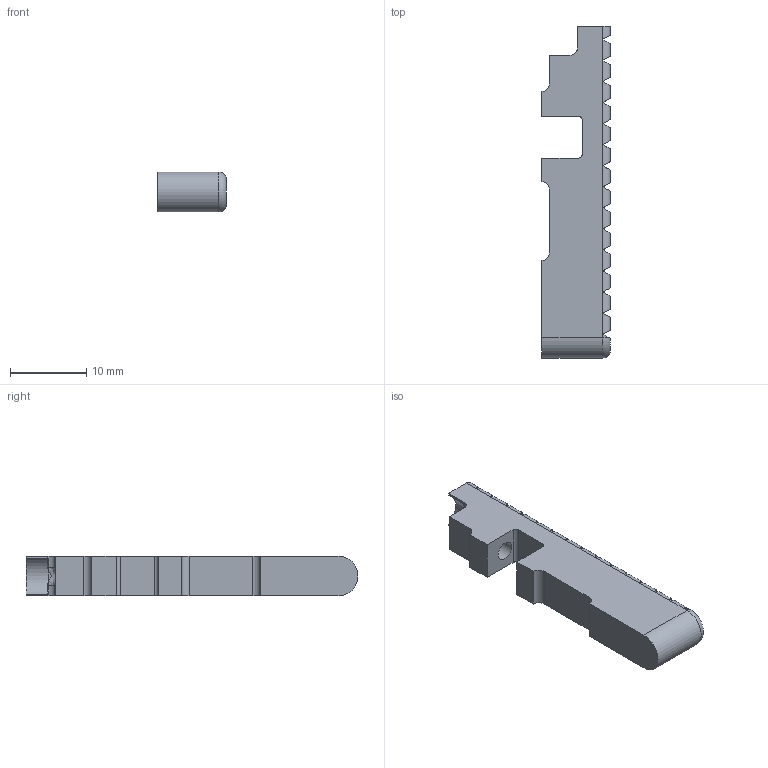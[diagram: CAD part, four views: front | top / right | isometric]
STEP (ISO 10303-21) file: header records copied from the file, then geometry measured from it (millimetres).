
FILE_DESCRIPTION(('HOOPS Exchange Step'),'2;1');
FILE_NAME('/private/var/mobile/Containers/Data/Application/4B1A7BF2-BF60-4167-B720-BE744F57E5F5/tmp/export/temp_export','2026-08-15T11:54:31-05:00',('mobile'),('Shapr3D Limited'),'HOOPS Exchange 2026.3','Shapr3D','Authorized');
FILE_SCHEMA( ('AP242_MANAGED_MODEL_BASED_3D_ENGINEERING_MIM_LF {1 0 10303 442 1 1 4}') );
Length unit declared in the file: millimetre
Products named in the file (3): Electronics Housing; Switch.step; root
Assembly tree (2 placements, depth 3):
  root
    Switch.step
      Electronics Housing
Bounding box: 9 x 43.57 x 5.25 mm (x, y, z)
Volume: 1599.3 mm3; surface area: 1335.1 mm2
Topology: 1 solids, 1 shells, 78 faces, 224 edges, 147 vertices
Faces by surface type: plane 64, cylinder 12, torus 1, bspline 1
Full cylindrical faces by diameter (mm): 2.5 x1
Entity records: 3145 total; most frequent: CARTESIAN_POINT 1186, ORIENTED_EDGE 448, DIRECTION 351, EDGE_CURVE 224, VERTEX_POINT 147, VECTOR 131, LINE 131, AXIS2_PLACEMENT_3D 110
